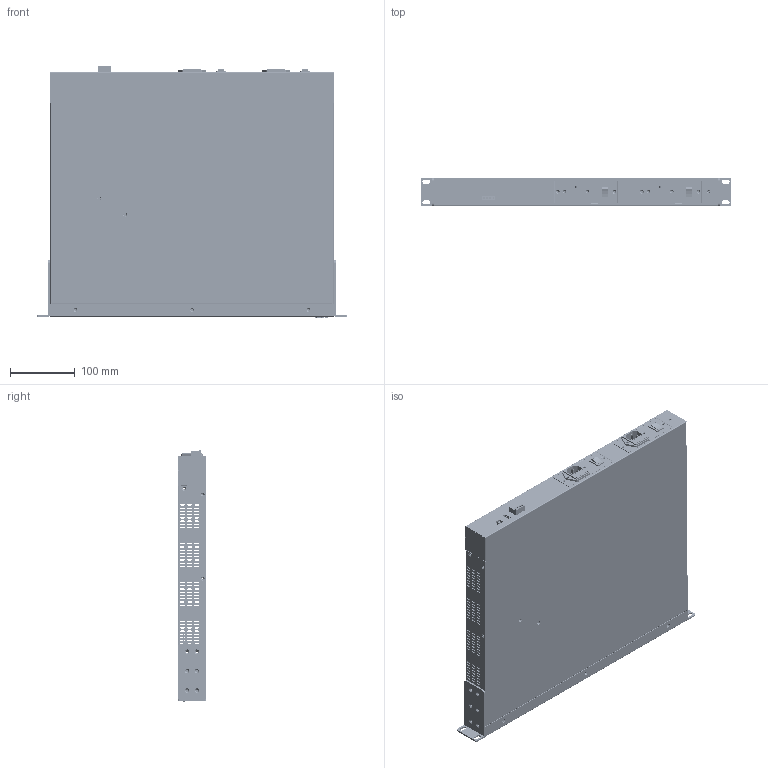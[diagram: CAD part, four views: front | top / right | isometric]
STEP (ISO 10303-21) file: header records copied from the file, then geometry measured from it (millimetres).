
FILE_DESCRIPTION((''),'2;1');
FILE_NAME('3D_ICS-G7528A-4GTXSFP-4XG-HV-HV','2014-08-31T',('Vincent_Huang'),(''),'PRO/ENGINEER BY PARAMETRIC TECHNOLOGY CORPORATION, 2004320','PRO/ENGINEER BY PARAMETRIC TECHNOLOGY CORPORATION, 2004320','');
FILE_SCHEMA(('CONFIG_CONTROL_DESIGN'));
Products named in the file (1): 3D_ICS-G7528A-4GTXSFP-4XG-HV-HV
Bounding box: 480 x 44 x 388.35 mm (x, y, z)
Surface area: 1315332.3 mm2 (no closed solid volume)
Topology: 0 solids, 264 shells, 28697 faces, 81112 edges, 53208 vertices
Faces by surface type: plane 18542, cylinder 9152, extrusion 484, cone 348, torus 106, bspline 48, sphere 17
Entity records: 947023 total; most frequent: CARTESIAN_POINT 191757, ORIENTED_EDGE 161618, DIRECTION 150957, EDGE_CURVE 81024, VECTOR 58643, LINE 58159, VERTEX_POINT 53208, AXIS2_PLACEMENT_3D 46157
